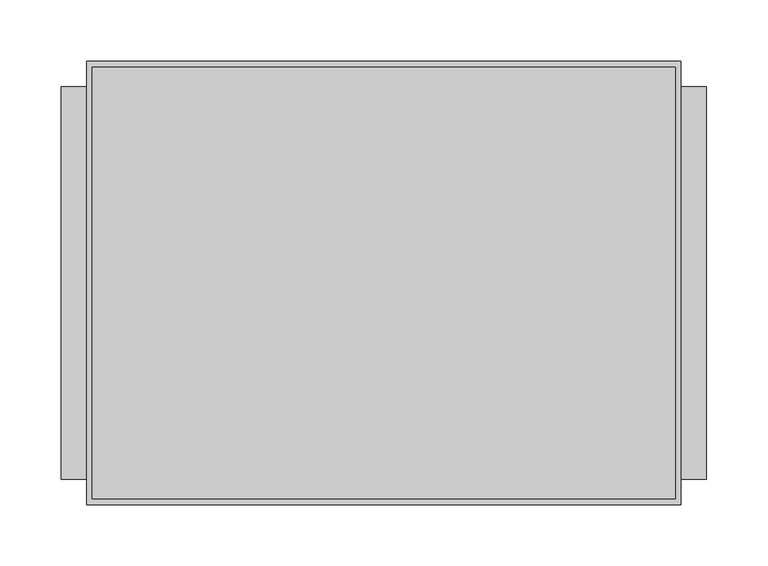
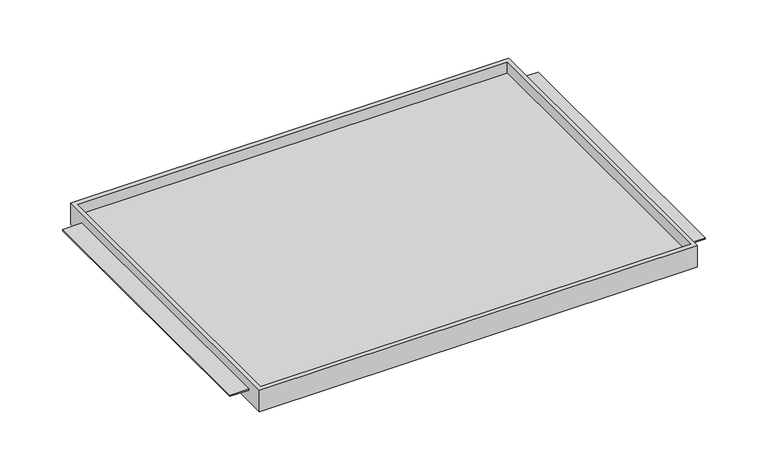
"""IFC4 building model written with IfcOpenShell, lengths in millimetres: furniture geometry."""

from ifc_helpers import new_model, si_unit, origin, place, context, project, spatial, faceted_brep, source, transform, mapped, element, save


def furniture_98393e33(model_context):
    return source(origin(), model_context, "Body", "Brep", [
        faceted_brep([(-242.7689646, -180.975, 1435.1), (242.7689646, -180.975, 1435.1), (242.7689646, -180.975, 1460.5), (-242.7689646, -180.975, 1460.5), (-242.7689646, 180.975, 1435.1), (-242.7689646, 180.975, 1460.5), (242.7689646, 180.975, 1460.5), (242.7689646, 180.975, 1435.1), (242.7689646, -160.3374879, 1449.4002), (242.7689646, 160.3374879, 1449.4002), (242.7689646, 160.3374879, 1447.8), (242.7689646, -160.3374879, 1447.8), (238.125, -176.2125, 1460.5), (-238.125, -176.2125, 1460.5), (-238.125, 175.91278, 1460.5), (238.125, 175.91278, 1460.5), (-242.7689646, 160.3374879, 1449.4002), (-242.7689646, -160.3374879, 1449.4002), (-242.7689646, -160.3374879, 1447.8), (-242.7689646, 160.3374879, 1447.8), (-238.125, -176.2125, 1447.8), (238.125, -176.2125, 1447.8), (238.125, 175.91278, 1447.8), (-238.125, 175.91278, 1447.8), (-263.525, 160.3374879, 1449.4002), (-263.525, -160.3374879, 1449.4002), (263.525, -160.3374879, 1449.4002), (263.525, 160.3374879, 1449.4002), (-263.525, -160.3374879, 1447.8), (-263.525, 160.3374879, 1447.8), (263.525, -160.3374879, 1447.8), (263.525, 160.3374879, 1447.8)], [[[0, 1, 2, 3]], [[4, 5, 6, 7]], [[1, 0, 4, 7]], [[2, 1, 7, 6], [8, 9, 10, 11]], [[3, 2, 6, 5], [12, 13, 14, 15]], [[0, 3, 5, 4], [16, 17, 18, 19]], [[20, 21, 22, 23]], [[21, 20, 13, 12]], [[22, 21, 12, 15]], [[23, 22, 15, 14]], [[20, 23, 14, 13]], [[16, 24, 25, 17]], [[26, 27, 9, 8]], [[18, 28, 29, 19]], [[30, 11, 10, 31]], [[24, 16, 19, 29]], [[25, 24, 29, 28]], [[17, 25, 28, 18]], [[27, 26, 30, 31]], [[9, 27, 31, 10]], [[26, 8, 11, 30]]]),
    ])


if __name__ == "__main__":
    model = new_model("IFC4")
    model_context = context("Model", 3, world=origin())
    ifc_project = project(units=[si_unit("LENGTHUNIT", "METRE", prefix="MILLI")], contexts=[model_context])
    site = spatial("IfcSite", under=ifc_project)
    building = spatial("IfcBuilding", under=site)
    placement = place(None, origin())
    furniture_shape = furniture_98393e33(model_context)
    element("IfcFurniture", 1, ObjectType="HermanMiller_CoStruc_CO203_CTrayShelf : 14\"D x 20\"W", at=placement, inside=building, context=model_context, shape_type="MappedRepresentation", body=[
        mapped(furniture_shape, transform((0.0, 0.0, 0.0), x_axis=(1.0, 0.0, 0.0), y_axis=(0.0, 1.0, 0.0), z_axis=(0.0, 0.0, 1.0))),
    ])
    save(model, "model.ifc")
